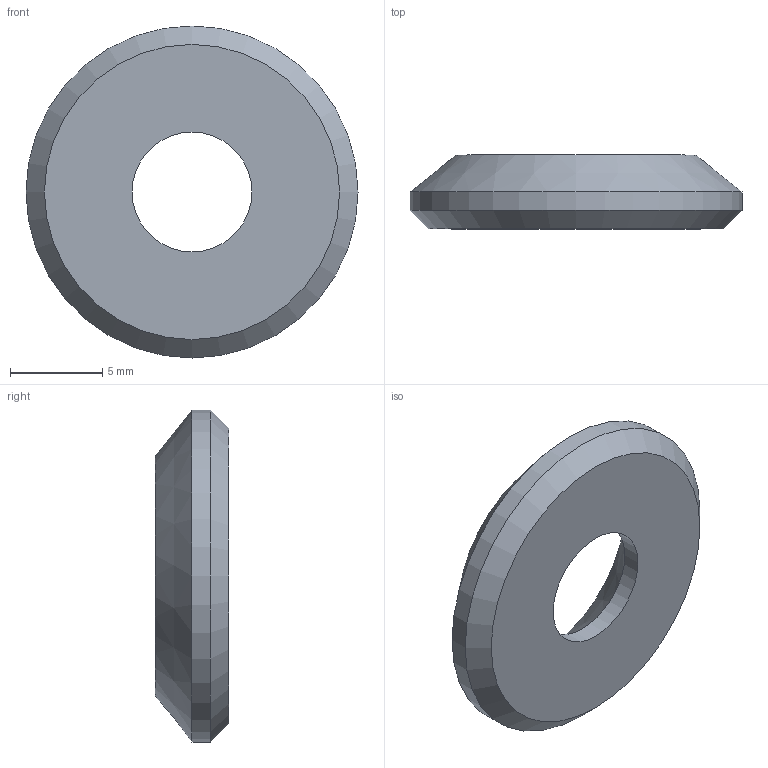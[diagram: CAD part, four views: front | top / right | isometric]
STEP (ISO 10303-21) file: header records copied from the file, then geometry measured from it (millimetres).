
FILE_DESCRIPTION (( 'STEP AP214' ), '1' );
FILE_NAME ('N90103.step', '2024-12-03T16:27:53', ( '' ), ( '' ), 'SwSTEP 2.0', 'SolidWorks 2023', '' );
FILE_SCHEMA (( 'AUTOMOTIVE_DESIGN' ));
Length unit declared in the file: millimetre
Products named in the file (1): N90103
Bounding box: 18 x 4 x 18 mm (x, y, z)
Volume: 609.5 mm3; surface area: 612.9 mm2
Topology: 1 solids, 1 shells, 7 faces, 12 edges, 7 vertices
Faces by surface type: cone 3, cylinder 2, plane 2
Full cylindrical faces by diameter (mm): 6.5 x1, 18 x1
Entity records: 171 total; most frequent: DIRECTION 30, CARTESIAN_POINT 22, AXIS2_PLACEMENT_3D 15, EDGE_LOOP 14, ORIENTED_EDGE 14, FACE_OUTER_BOUND 9, ADVANCED_FACE 7, VERTEX_POINT 7
